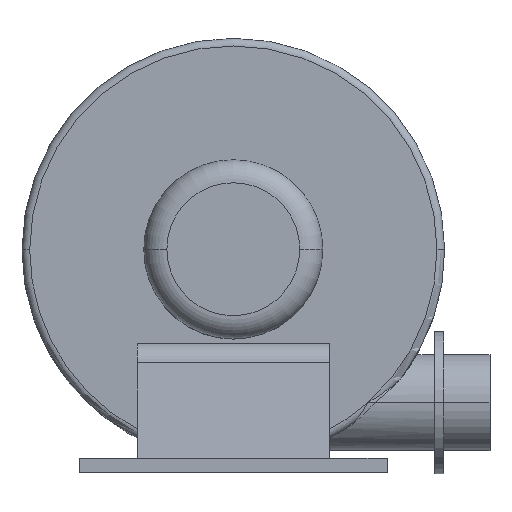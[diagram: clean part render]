
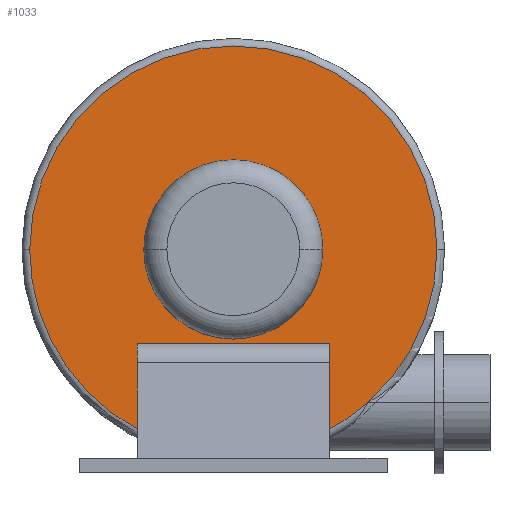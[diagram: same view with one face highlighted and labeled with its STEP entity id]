
A CAD part, top view. The second image highlights one B-rep face of the part: STEP entity #1033.
In plain terms, the highlighted planar face has unit normal (0, 0, 1).
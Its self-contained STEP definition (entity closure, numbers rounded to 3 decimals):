
#19 = DIRECTION ( 'NONE',  ( 1., 0., 0. ) ) ;
#133 = EDGE_LOOP ( 'NONE', ( #2006, #2090 ) ) ;
#145 = DIRECTION ( 'NONE',  ( 1., 0., 0. ) ) ;
#156 = AXIS2_PLACEMENT_3D ( 'NONE', #1993, #942, #2188 ) ;
#186 = AXIS2_PLACEMENT_3D ( 'NONE', #1644, #535, #1818 ) ;
#210 = CARTESIAN_POINT ( 'NONE',  ( -125., -233.666, 62.5 ) ) ;
#234 = AXIS2_PLACEMENT_3D ( 'NONE', #2327, #1263, #145 ) ;
#244 = CARTESIAN_POINT ( 'NONE',  ( 125., -233.666, 62.5 ) ) ;
#257 = DIRECTION ( 'NONE',  ( 0., 0., 1. ) ) ;
#289 = AXIS2_PLACEMENT_3D ( 'NONE', #2196, #1149, #19 ) ;
#331 = VERTEX_POINT ( 'NONE', #1299 ) ;
#392 = DIRECTION ( 'NONE',  ( 0., 0., 1. ) ) ;
#407 = VECTOR ( 'NONE', #616, 1000. ) ;
#410 = CIRCLE ( 'NONE', #1252, 265. ) ;
#426 = CARTESIAN_POINT ( 'NONE',  ( 174.997, -199., 62.5 ) ) ;
#431 = PLANE ( 'NONE',  #517 ) ;
#487 = CIRCLE ( 'NONE', #289, 265. ) ;
#502 = CARTESIAN_POINT ( 'NONE',  ( 0., 0., 62.5 ) ) ;
#517 = AXIS2_PLACEMENT_3D ( 'NONE', #612, #257, #2064 ) ;
#522 = VERTEX_POINT ( 'NONE', #2217 ) ;
#535 = DIRECTION ( 'NONE',  ( 0., 0., 1. ) ) ;
#593 = CARTESIAN_POINT ( 'NONE',  ( 265., 0., 62.5 ) ) ;
#612 = CARTESIAN_POINT ( 'NONE',  ( 0., 0., 62.5 ) ) ;
#616 = DIRECTION ( 'NONE',  ( 0., 1., 0. ) ) ;
#629 = CIRCLE ( 'NONE', #966, 116.5 ) ;
#645 = CARTESIAN_POINT ( 'NONE',  ( -265., 0., 62.5 ) ) ;
#688 = DIRECTION ( 'NONE',  ( 1., 0., 0. ) ) ;
#761 = VECTOR ( 'NONE', #1408, 1000. ) ;
#841 = VERTEX_POINT ( 'NONE', #1435 ) ;
#942 = DIRECTION ( 'NONE',  ( 0., 0., 1. ) ) ;
#966 = AXIS2_PLACEMENT_3D ( 'NONE', #502, #1785, #688 ) ;
#984 = VERTEX_POINT ( 'NONE', #593 ) ;
#1033 = ADVANCED_FACE ( 'NONE', ( #2080, #1568 ), #431, .T. ) ;
#1059 = CARTESIAN_POINT ( 'NONE',  ( 125., 0., 62.5 ) ) ;
#1142 = VERTEX_POINT ( 'NONE', #645 ) ;
#1149 = DIRECTION ( 'NONE',  ( 0., 0., 1. ) ) ;
#1186 = EDGE_LOOP ( 'NONE', ( #1659, #1714, #1743, #1814, #1869, #1926, #1965 ) ) ;
#1195 = VERTEX_POINT ( 'NONE', #1585 ) ;
#1227 = DIRECTION ( 'NONE',  ( 0., 1., 0. ) ) ;
#1252 = AXIS2_PLACEMENT_3D ( 'NONE', #1499, #392, #1680 ) ;
#1260 = CIRCLE ( 'NONE', #234, 265. ) ;
#1263 = DIRECTION ( 'NONE',  ( 0., 0., 1. ) ) ;
#1265 = LINE ( 'NONE', #1920, #761 ) ;
#1299 = CARTESIAN_POINT ( 'NONE',  ( -125., -122., 62.5 ) ) ;
#1394 = LINE ( 'NONE', #2069, #407 ) ;
#1408 = DIRECTION ( 'NONE',  ( 1., 0., 0. ) ) ;
#1435 = CARTESIAN_POINT ( 'NONE',  ( 116.5, 0., 62.5 ) ) ;
#1470 = EDGE_CURVE ( 'NONE', #1142, #2094, #487, .T. ) ;
#1499 = CARTESIAN_POINT ( 'NONE',  ( 0., 0., 62.5 ) ) ;
#1565 = CIRCLE ( 'NONE', #156, 265. ) ;
#1568 = FACE_BOUND ( 'NONE', #133, .T. ) ;
#1585 = CARTESIAN_POINT ( 'NONE',  ( 125., -122., 62.5 ) ) ;
#1593 = EDGE_CURVE ( 'NONE', #2185, #1742, #1260, .T. ) ;
#1615 = CIRCLE ( 'NONE', #186, 116.5 ) ;
#1644 = CARTESIAN_POINT ( 'NONE',  ( 0., 0., 62.5 ) ) ;
#1650 = EDGE_CURVE ( 'NONE', #841, #522, #1615, .T. ) ;
#1659 = ORIENTED_EDGE ( 'NONE', *, *, #2226, .F. ) ;
#1669 = EDGE_CURVE ( 'NONE', #1742, #984, #1565, .T. ) ;
#1680 = DIRECTION ( 'NONE',  ( 1., 0., 0. ) ) ;
#1714 = ORIENTED_EDGE ( 'NONE', *, *, #1593, .T. ) ;
#1742 = VERTEX_POINT ( 'NONE', #426 ) ;
#1743 = ORIENTED_EDGE ( 'NONE', *, *, #1669, .T. ) ;
#1766 = EDGE_CURVE ( 'NONE', #2094, #331, #1394, .T. ) ;
#1785 = DIRECTION ( 'NONE',  ( 0., 0., 1. ) ) ;
#1814 = ORIENTED_EDGE ( 'NONE', *, *, #2067, .T. ) ;
#1818 = DIRECTION ( 'NONE',  ( 1., 0., 0. ) ) ;
#1850 = EDGE_CURVE ( 'NONE', #331, #1195, #1265, .T. ) ;
#1869 = ORIENTED_EDGE ( 'NONE', *, *, #1470, .T. ) ;
#1920 = CARTESIAN_POINT ( 'NONE',  ( 0., -122., 62.5 ) ) ;
#1926 = ORIENTED_EDGE ( 'NONE', *, *, #1766, .T. ) ;
#1936 = VECTOR ( 'NONE', #1227, 1000. ) ;
#1947 = EDGE_CURVE ( 'NONE', #522, #841, #629, .T. ) ;
#1965 = ORIENTED_EDGE ( 'NONE', *, *, #1850, .T. ) ;
#1988 = LINE ( 'NONE', #1059, #1936 ) ;
#1993 = CARTESIAN_POINT ( 'NONE',  ( 0., 0., 62.5 ) ) ;
#2006 = ORIENTED_EDGE ( 'NONE', *, *, #1947, .F. ) ;
#2064 = DIRECTION ( 'NONE',  ( 1., 0., 0. ) ) ;
#2067 = EDGE_CURVE ( 'NONE', #984, #1142, #410, .T. ) ;
#2069 = CARTESIAN_POINT ( 'NONE',  ( -125., 0., 62.5 ) ) ;
#2080 = FACE_OUTER_BOUND ( 'NONE', #1186, .T. ) ;
#2090 = ORIENTED_EDGE ( 'NONE', *, *, #1650, .F. ) ;
#2094 = VERTEX_POINT ( 'NONE', #210 ) ;
#2185 = VERTEX_POINT ( 'NONE', #244 ) ;
#2188 = DIRECTION ( 'NONE',  ( 1., 0., 0. ) ) ;
#2196 = CARTESIAN_POINT ( 'NONE',  ( 0., 0., 62.5 ) ) ;
#2217 = CARTESIAN_POINT ( 'NONE',  ( -116.5, 0., 62.5 ) ) ;
#2226 = EDGE_CURVE ( 'NONE', #2185, #1195, #1988, .T. ) ;
#2327 = CARTESIAN_POINT ( 'NONE',  ( 0., 0., 62.5 ) ) ;
